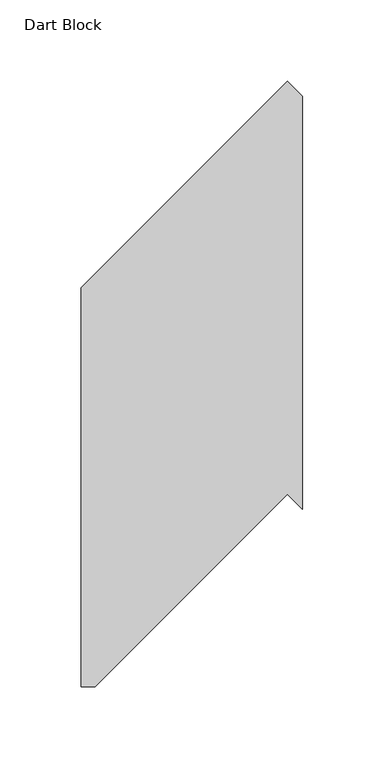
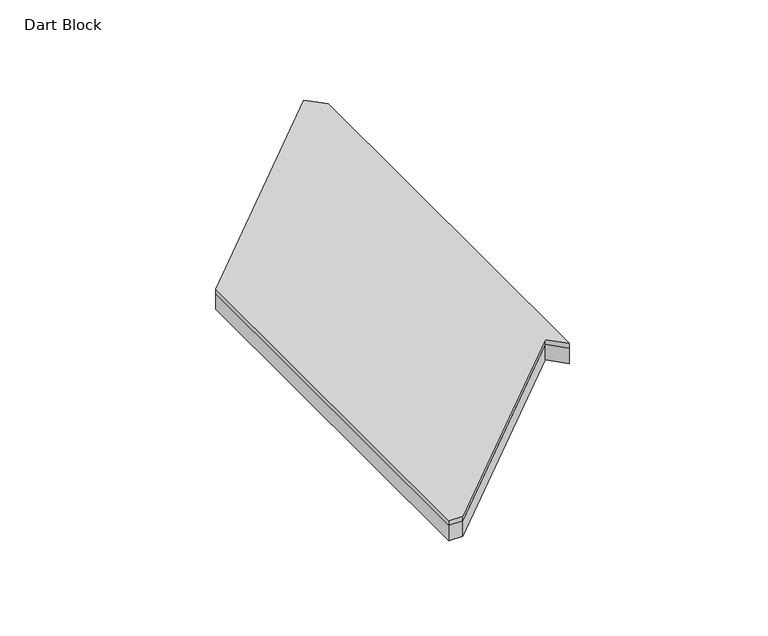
"""IFC4 building model written with IfcOpenShell, lengths in millimetres: proxy geometry, FilzFelt_Dart_Block : Dart Block."""

from ifc_helpers import new_model, si_unit, frame, origin, origin_with_axes, place, context, project, spatial, polyline, outline, extrude, source, transform, mapped, element, save


def dart_block_29ca2576(model_context):
    return source(origin(), model_context, "Body", "SweptSolid", [
        extrude(outline(polyline([(-127.0, 63.5), (0.0, 190.5), (9.2936857, 181.2063143), (9.2936857, -72.7936857), (0.0, -63.5), (-118.5423284, -182.0423284), (-127.0, -182.0423284), (-127.0, 63.5)])), frame((0.0, 0.0, 10.0210937), z_axis=(0.0, 0.0, 1.0), x_axis=(1.0, 0.0, 0.0)), (0.0, 0.0, 1.0), 2.9765625),
        extrude(outline(polyline([(-127.0, 63.5), (0.0, 190.5), (9.2936857, 181.2063143), (9.2936857, -72.7936857), (0.0, -63.5), (-118.5423284, -182.0423284), (-127.0, -182.0423284), (-127.0, 63.5)])), origin_with_axes(), (0.0, 0.0, 1.0), 10.0210938),
    ])


if __name__ == "__main__":
    model = new_model("IFC4")
    model_context = context("Model", 3, world=origin())
    ifc_project = project(units=[si_unit("LENGTHUNIT", "METRE", prefix="MILLI")], contexts=[model_context])
    site = spatial("IfcSite", under=ifc_project)
    building = spatial("IfcBuilding", under=site)
    placement = place(None, origin())
    dart_block_shape = dart_block_29ca2576(model_context)
    element("IfcBuildingElementProxy", 1, Name="FilzFelt_Dart_Block : Dart Block", ObjectType="FilzFelt_Dart_Block : Dart Block", at=placement, inside=building, context=model_context, shape_type="MappedRepresentation", body=[
        mapped(dart_block_shape, transform((0.0, 0.0, 0.0), x_axis=(1.0, 0.0, 0.0), y_axis=(0.0, 1.0, 0.0), z_axis=(0.0, 0.0, 1.0))),
    ])
    save(model, "model.ifc")
